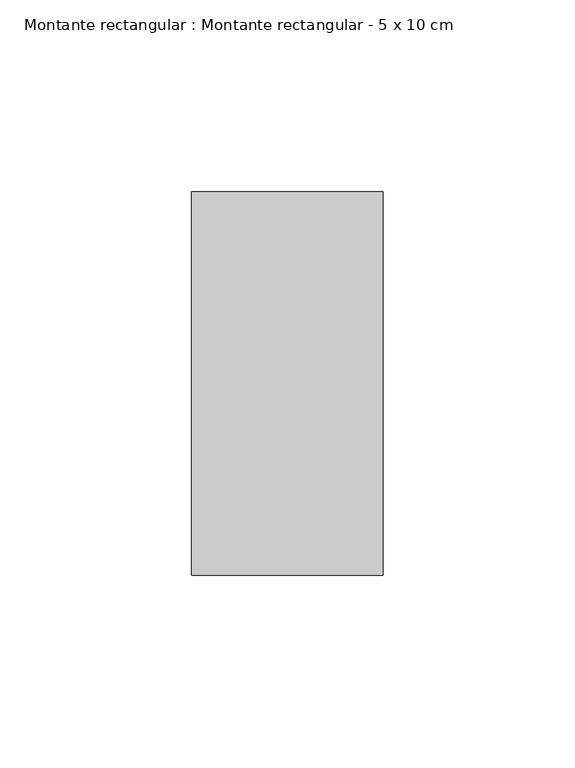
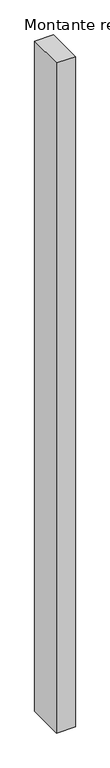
"""IFC4 building model written with IfcOpenShell, lengths in millimetres: member geometry, Montante rectangular : Montante rectangular - 5 x 10 cm."""

from ifc_helpers import new_model, si_unit, frame, origin, place, context, project, spatial, polyline, outline, extrude, source, transform, mapped, element, save


def montante_rectangular_montante_rectangular_5_x_10_cm_bb438cc1(model_context):
    return source(origin(), model_context, "Body", "SweptSolid", [
        extrude(outline(polyline([(0.0, 50.0), (0.0, -50.0), (-50.0, -50.0), (-50.0, 50.0), (0.0, 50.0)])), frame((0.0, 0.0, -1877.2338044), z_axis=(0.0, 0.0, 1.0), x_axis=(1.0, 0.0, 0.0)), (0.0, 0.0, 1.0), 1877.2338044),
    ])


if __name__ == "__main__":
    model = new_model("IFC4")
    model_context = context("Model", 3, world=origin())
    ifc_project = project(units=[si_unit("LENGTHUNIT", "METRE", prefix="MILLI")], contexts=[model_context])
    site = spatial("IfcSite", under=ifc_project)
    building = spatial("IfcBuilding", under=site)
    placement = place(None, origin())
    montante_rectangular_montante_rectangular_5_x_10_cm_shape = montante_rectangular_montante_rectangular_5_x_10_cm_bb438cc1(model_context)
    element("IfcMember", 1, ObjectType="Montante rectangular : Montante rectangular - 5 x 10 cm", at=placement, inside=building, context=model_context, shape_type="MappedRepresentation", body=[
        mapped(montante_rectangular_montante_rectangular_5_x_10_cm_shape, transform((0.0, 0.0, 0.0), x_axis=(1.0, 0.0, 0.0), y_axis=(0.0, 1.0, 0.0), z_axis=(0.0, 0.0, 1.0))),
    ])
    save(model, "model.ifc")
